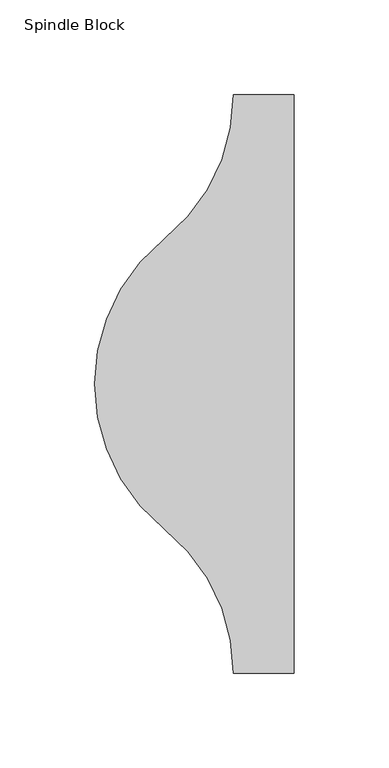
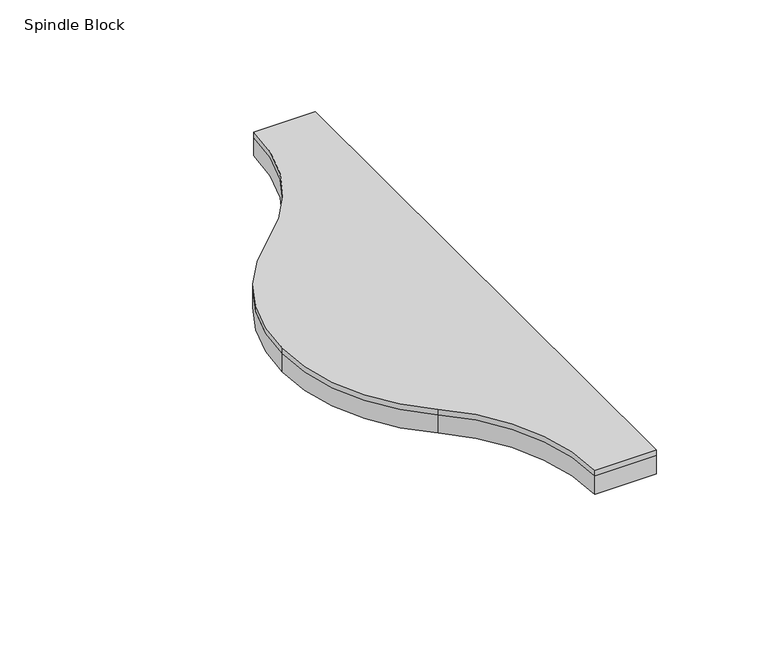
"""IFC4 building model written with IfcOpenShell, lengths in millimetres: proxy geometry, FilzFelt_Spindle_Block : Spindle Block."""

from ifc_helpers import new_model, si_unit, point, frame, frame_2d, origin, origin_with_axes, place, context, project, spatial, polyline, circle_curve, trimmed, segment, composite_curve, outline, extrude, source, transform, mapped, element, save


def spindle_block_4eaa1774(model_context):
    return source(origin(), model_context, "Body", "SweptSolid", [
        extrude(outline(composite_curve([segment(polyline([(15.9204999, -152.5), (-15.9204999, -152.5)]), True, "CONTINUOUS"), segment(trimmed(circle_curve(frame_2d((-113.4981354, -152.5)), 97.5776355), [point((-15.9204999, -152.5))], [point((-52.6102676, -76.25))], True, "CARTESIAN"), True, "CONTINUOUS"), segment(trimmed(circle_curve(frame_2d((8.2776003, 0.0)), 97.5776355), [point((-52.6102676, -76.25))], [point((-89.3000352, 0.0))], False, "CARTESIAN"), True, "CONTINUOUS"), segment(trimmed(circle_curve(frame_2d((8.2776003, 0.0)), 97.5776355), [point((-89.3000352, 0.0))], [point((-52.6102676, 76.25))], False, "CARTESIAN"), True, "CONTINUOUS"), segment(trimmed(circle_curve(frame_2d((-113.4981354, 152.5)), 97.5776355), [point((-52.6102676, 76.25))], [point((-15.9204999, 152.5))], True, "CARTESIAN"), True, "CONTINUOUS"), segment(polyline([(-15.9204999, 152.5), (15.9204999, 152.5), (15.9204999, -152.5)]), True, "CONTINUOUS")], self_intersect=False)), frame((0.0, 0.0, 10.0210937), z_axis=(0.0, 0.0, 1.0), x_axis=(1.0, 0.0, 0.0)), (0.0, 0.0, 1.0), 2.9765625),
        extrude(outline(composite_curve([segment(polyline([(15.9204999, -152.5), (-15.9204999, -152.5)]), True, "CONTINUOUS"), segment(trimmed(circle_curve(frame_2d((-113.4981354, -152.5)), 97.5776355), [point((-15.9204999, -152.5))], [point((-52.6102676, -76.25))], True, "CARTESIAN"), True, "CONTINUOUS"), segment(trimmed(circle_curve(frame_2d((8.2776003, 0.0)), 97.5776355), [point((-52.6102676, -76.25))], [point((-89.3000352, 0.0))], False, "CARTESIAN"), True, "CONTINUOUS"), segment(trimmed(circle_curve(frame_2d((8.2776003, 0.0)), 97.5776355), [point((-89.3000352, 0.0))], [point((-52.6102676, 76.25))], False, "CARTESIAN"), True, "CONTINUOUS"), segment(trimmed(circle_curve(frame_2d((-113.4981354, 152.5)), 97.5776355), [point((-52.6102676, 76.25))], [point((-15.9204999, 152.5))], True, "CARTESIAN"), True, "CONTINUOUS"), segment(polyline([(-15.9204999, 152.5), (15.9204999, 152.5), (15.9204999, -152.5)]), True, "CONTINUOUS")], self_intersect=False)), origin_with_axes(), (0.0, 0.0, 1.0), 10.0210938),
    ])


if __name__ == "__main__":
    model = new_model("IFC4")
    model_context = context("Model", 3, world=origin())
    ifc_project = project(units=[si_unit("LENGTHUNIT", "METRE", prefix="MILLI")], contexts=[model_context])
    site = spatial("IfcSite", under=ifc_project)
    building = spatial("IfcBuilding", under=site)
    placement = place(None, origin())
    spindle_block_shape = spindle_block_4eaa1774(model_context)
    element("IfcBuildingElementProxy", 1, Name="FilzFelt_Spindle_Block : Spindle Block", ObjectType="FilzFelt_Spindle_Block : Spindle Block", at=placement, inside=building, context=model_context, shape_type="MappedRepresentation", body=[
        mapped(spindle_block_shape, transform((0.0, 0.0, 0.0), x_axis=(1.0, 0.0, 0.0), y_axis=(0.0, 1.0, 0.0), z_axis=(0.0, 0.0, 1.0))),
    ])
    save(model, "model.ifc")
